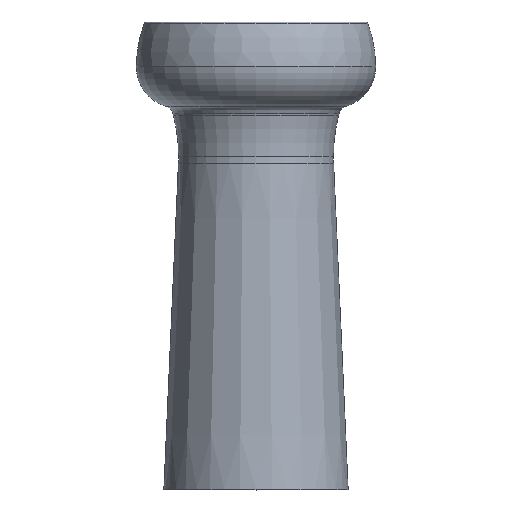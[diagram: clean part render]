
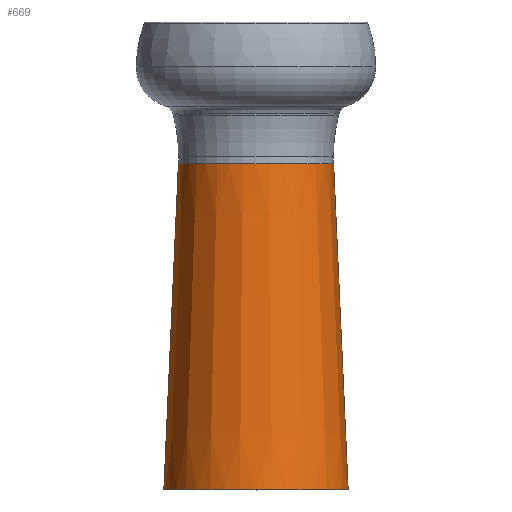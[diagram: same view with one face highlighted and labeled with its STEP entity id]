
A CAD part, top view. The second image highlights one B-rep face of the part: STEP entity #669.
In plain terms, the highlighted conical face has half-angle 2.553 degrees and reference radius 141.076 mm.
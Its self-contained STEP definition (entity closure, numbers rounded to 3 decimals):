
#38 = ORIENTED_EDGE ( 'NONE', *, *, #1846, .T. ) ;
#113 = VERTEX_POINT ( 'NONE', #336 ) ;
#120 = AXIS2_PLACEMENT_3D ( 'NONE', #868, #2029, #2401 ) ;
#171 = CARTESIAN_POINT ( 'NONE',  ( 141.076, -257.255, 0. ) ) ;
#180 = DIRECTION ( 'NONE',  ( -1., 0., 0. ) ) ;
#244 = AXIS2_PLACEMENT_3D ( 'NONE', #2508, #1353, #180 ) ;
#297 = EDGE_CURVE ( 'NONE', #1177, #2502, #362, .T. ) ;
#309 = DIRECTION ( 'NONE',  ( -0.045, -0.999, 0. ) ) ;
#336 = CARTESIAN_POINT ( 'NONE',  ( -167.5, -850., 0. ) ) ;
#362 = LINE ( 'NONE', #171, #903 ) ;
#487 = CARTESIAN_POINT ( 'NONE',  ( 0., -257.255, 0. ) ) ;
#549 = CIRCLE ( 'NONE', #2355, 141.076 ) ;
#590 = ORIENTED_EDGE ( 'NONE', *, *, #2048, .T. ) ;
#616 = DIRECTION ( 'NONE',  ( -1., 0., 0. ) ) ;
#662 = CARTESIAN_POINT ( 'NONE',  ( 141.076, -257.255, 0. ) ) ;
#669 = ADVANCED_FACE ( 'NONE', ( #2406 ), #2231, .T. ) ;
#868 = CARTESIAN_POINT ( 'NONE',  ( 0., -257.255, 0. ) ) ;
#903 = VECTOR ( 'NONE', #1343, 1000. ) ;
#928 = EDGE_CURVE ( 'NONE', #1097, #1177, #549, .T. ) ;
#1036 = VECTOR ( 'NONE', #309, 1000. ) ;
#1097 = VERTEX_POINT ( 'NONE', #2391 ) ;
#1177 = VERTEX_POINT ( 'NONE', #662 ) ;
#1298 = CARTESIAN_POINT ( 'NONE',  ( -141.076, -257.255, 0. ) ) ;
#1343 = DIRECTION ( 'NONE',  ( 0.045, -0.999, 0. ) ) ;
#1353 = DIRECTION ( 'NONE',  ( 0., 1., 0. ) ) ;
#1362 = EDGE_LOOP ( 'NONE', ( #2374, #38, #590, #1385 ) ) ;
#1385 = ORIENTED_EDGE ( 'NONE', *, *, #297, .F. ) ;
#1846 = EDGE_CURVE ( 'NONE', #1097, #113, #2074, .T. ) ;
#1857 = DIRECTION ( 'NONE',  ( 0., 1., 0. ) ) ;
#1947 = CARTESIAN_POINT ( 'NONE',  ( 167.5, -850., 0. ) ) ;
#2029 = DIRECTION ( 'NONE',  ( 0., -1., 0. ) ) ;
#2048 = EDGE_CURVE ( 'NONE', #113, #2502, #2282, .T. ) ;
#2074 = LINE ( 'NONE', #1298, #1036 ) ;
#2231 = CONICAL_SURFACE ( 'NONE', #120, 141.076, 0.045 ) ;
#2282 = CIRCLE ( 'NONE', #244, 167.5 ) ;
#2355 = AXIS2_PLACEMENT_3D ( 'NONE', #487, #1857, #616 ) ;
#2374 = ORIENTED_EDGE ( 'NONE', *, *, #928, .F. ) ;
#2391 = CARTESIAN_POINT ( 'NONE',  ( -141.076, -257.255, 0. ) ) ;
#2401 = DIRECTION ( 'NONE',  ( 1., 0., 0. ) ) ;
#2406 = FACE_OUTER_BOUND ( 'NONE', #1362, .T. ) ;
#2502 = VERTEX_POINT ( 'NONE', #1947 ) ;
#2508 = CARTESIAN_POINT ( 'NONE',  ( 0., -850., 0. ) ) ;
